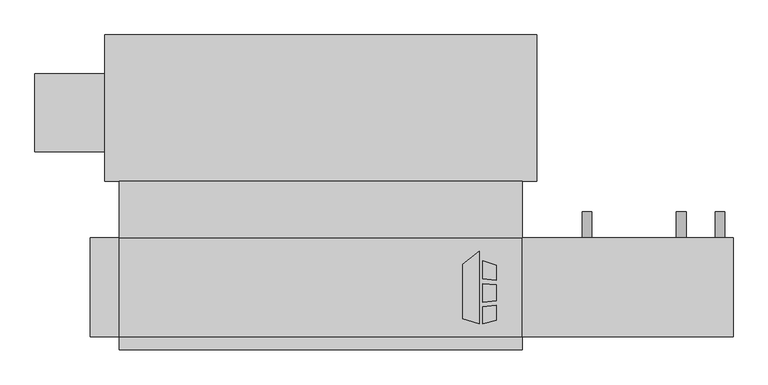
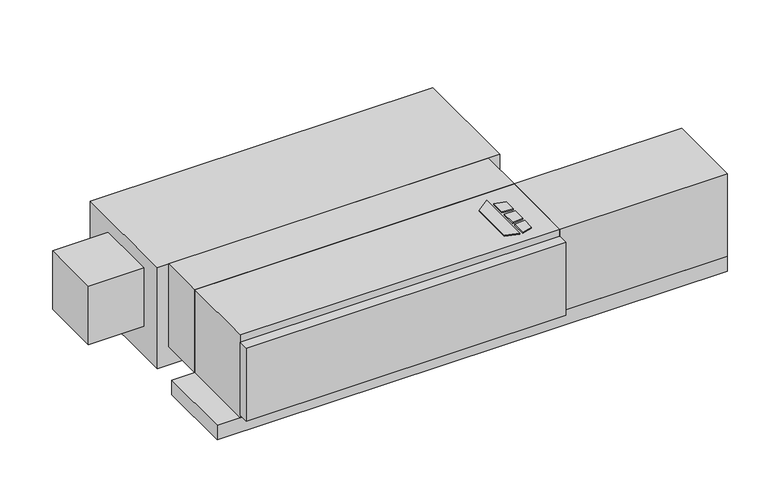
"""IFC4 building model written with IfcOpenShell, lengths in millimetres: proxy geometry, Concealed_Horizontal_Fan_Coil_Unit_With_Plenum_-_CPF_-_IEC_-_2-Pipe_RH : Size 06 - 115v/60Hz/1Ph - 4/1 Coil."""

import ifcopenshell
import ifcopenshell.guid

model = None  # the IFC model being written
_history = None  # IfcOwnerHistory: only IFC2X3 demands one
_inside = {}  # id of a spatial element -> (the spatial element, [elements in it])
_under = {}  # id of a project, library or spatial element -> (it, [spatial elements below it])
_declared = {}  # id of a project -> (the project, [libraries it declares])
_typed = {}  # id of a type object -> (the type object, [elements of that type])
_made_of = {}  # id of a material, layer set ... -> (it, [elements and type objects made of it])


def new_model(schema):
    """Start an empty IFC model of exactly this schema.

    Asked for "IFC4X3", IfcOpenShell would pick the latest addendum, in which some entities
    have other attributes; the version numbers below select the first issue.
    IFC2X3 requires an IfcOwnerHistory on every rooted entity: one is made here for all.
    """
    global model, _history
    if schema == "IFC4X3":
        model = ifcopenshell.file(schema_version=(4, 3, 0, 0))
    else:
        model = ifcopenshell.file(schema=schema)
    _inside.clear()
    _under.clear()
    _declared.clear()
    _typed.clear()
    _made_of.clear()
    _history = None
    if model.schema == "IFC2X3":
        org = make("IfcOrganization", Name="unknown")
        user = make(
            "IfcPersonAndOrganization",
            ThePerson=make("IfcPerson", FamilyName="unknown"),
            TheOrganization=org,
        )
        app = make(
            "IfcApplication",
            ApplicationDeveloper=org,
            Version="unknown",
            ApplicationFullName="unknown",
            ApplicationIdentifier="unknown",
        )
        _history = make(
            "IfcOwnerHistory",
            OwningUser=user,
            OwningApplication=app,
            ChangeAction="ADDED",
            CreationDate=0,
        )
    return model


def make(cls, **values):
    """One entity of the class cls with the attributes given. An attribute that is None is left unset."""
    return model.create_entity(
        cls, **{name: value for name, value in values.items() if value is not None}
    )


def rooted(cls, **values):
    """An entity with a GlobalId (a new one), such as an element, a storey or a relation."""
    return make(cls, GlobalId=ifcopenshell.guid.new(), OwnerHistory=_history, **values)


def si_unit(unit_type, name, prefix=None):
    """IfcSIUnit, for example si_unit("LENGTHUNIT", "METRE", prefix="MILLI")."""
    return make("IfcSIUnit", UnitType=unit_type, Prefix=prefix, Name=name)


def assignment(units):
    """IfcUnitAssignment: the units of a project."""
    return None if units is None else make("IfcUnitAssignment", Units=units)


def point(xyz):
    """IfcCartesianPoint."""
    return None if xyz is None else make("IfcCartesianPoint", Coordinates=xyz)


def direction(xyz):
    """IfcDirection."""
    return None if xyz is None else make("IfcDirection", DirectionRatios=xyz)


def frame(location, z_axis=None, x_axis=None):
    """IfcAxis2Placement3D, a coordinate frame: its origin and axes. An axis left out is left unset."""
    return make(
        "IfcAxis2Placement3D",
        Location=point(location),
        Axis=direction(z_axis),
        RefDirection=direction(x_axis),
    )


def frame_2d(location, x_axis=None):
    """IfcAxis2Placement2D, a coordinate frame in the plane: its origin and x axis."""
    return make(
        "IfcAxis2Placement2D", Location=point(location), RefDirection=direction(x_axis)
    )


def origin():
    """The frame at (0, 0, 0) with its axes left unset."""
    return frame((0.0, 0.0, 0.0))


def origin_with_axes():
    """The frame at (0, 0, 0) with the z axis (0, 0, 1) and the x axis (1, 0, 0) written out."""
    return frame((0.0, 0.0, 0.0), z_axis=(0.0, 0.0, 1.0), x_axis=(1.0, 0.0, 0.0))


def place(relative_to, where):
    """IfcLocalPlacement: puts the frame where relative to a parent placement (None: the world)."""
    return make(
        "IfcLocalPlacement", PlacementRelTo=relative_to, RelativePlacement=where
    )


def context(
    kind, dimensions, precision=None, world=None, true_north=None, identifier=None
):
    """IfcGeometricRepresentationContext, for example the 3D "Model" context."""
    return make(
        "IfcGeometricRepresentationContext",
        ContextIdentifier=identifier,
        ContextType=kind,
        CoordinateSpaceDimension=dimensions,
        Precision=precision,
        WorldCoordinateSystem=world,
        TrueNorth=true_north,
    )


def project(units=None, contexts=None):
    """IfcProject with its units and contexts."""
    return rooted(
        "IfcProject",
        Name="project",
        RepresentationContexts=contexts,
        UnitsInContext=assignment(units),
    )


def spatial(cls, under=None, at=None, **own):
    """A site, building, storey or space (cls), placed at a placement, below another one or the project."""
    s = rooted(cls, ObjectPlacement=at, **own)
    if under is not None:
        _under.setdefault(under.id(), (under, []))[1].append(s)
    return s


def polyline(points):
    """IfcPolyline through the points."""
    return make("IfcPolyline", Points=[point(p) for p in points])


def circle_curve(where, radius):
    """IfcCircle in the frame where."""
    return make("IfcCircle", Position=where, Radius=radius)


def trimmed(basis, trim1, trim2, sense, master):
    """IfcTrimmedCurve: the piece of a basis curve between two trims."""
    return make(
        "IfcTrimmedCurve",
        BasisCurve=basis,
        Trim1=trim1,
        Trim2=trim2,
        SenseAgreement=sense,
        MasterRepresentation=master,
    )


def segment(curve, same_sense, transition):
    """IfcCompositeCurveSegment."""
    return make(
        "IfcCompositeCurveSegment",
        Transition=transition,
        SameSense=same_sense,
        ParentCurve=curve,
    )


def composite_curve(segments, self_intersect=None):
    """IfcCompositeCurve: segments joined end to end."""
    return make("IfcCompositeCurve", Segments=segments, SelfIntersect=self_intersect)


def outline(outer, holes=None, kind="AREA"):
    """IfcArbitraryClosedProfileDef: a profile drawn as a closed curve; with holes, ...WithVoids."""
    if holes is None:
        return make("IfcArbitraryClosedProfileDef", ProfileType=kind, OuterCurve=outer)
    return make(
        "IfcArbitraryProfileDefWithVoids",
        ProfileType=kind,
        OuterCurve=outer,
        InnerCurves=holes,
    )


def extrude(swept, where, along, depth):
    """IfcExtrudedAreaSolid: the profile swept, set in the frame where, extruded along a direction by depth."""
    return make(
        "IfcExtrudedAreaSolid",
        SweptArea=swept,
        Position=where,
        ExtrudedDirection=direction(along),
        Depth=depth,
    )


def shape(context_of_items, identifier, shape_type, items):
    """IfcShapeRepresentation: the items that make up one representation, for example the "Body"."""
    return make(
        "IfcShapeRepresentation",
        ContextOfItems=context_of_items,
        RepresentationIdentifier=identifier,
        RepresentationType=shape_type,
        Items=items,
    )


def source(mapping_origin, context_of_items, identifier, shape_type, items):
    """IfcRepresentationMap: a shape defined once, which mapped items show again and again."""
    return make(
        "IfcRepresentationMap",
        MappingOrigin=mapping_origin,
        MappedRepresentation=shape(context_of_items, identifier, shape_type, items),
    )


def transform(
    local_origin,
    x_axis=None,
    y_axis=None,
    z_axis=None,
    scale=None,
    scale2=None,
    scale3=None,
    uniform=True,
):
    """IfcCartesianTransformationOperator3D, or its non-uniform kind. x_axis, y_axis, z_axis: its Axis1, 2, 3."""
    if uniform:
        return make(
            "IfcCartesianTransformationOperator3D",
            Axis1=direction(x_axis),
            Axis2=direction(y_axis),
            LocalOrigin=point(local_origin),
            Scale=scale,
            Axis3=direction(z_axis),
        )
    return make(
        "IfcCartesianTransformationOperator3DnonUniform",
        Axis1=direction(x_axis),
        Axis2=direction(y_axis),
        LocalOrigin=point(local_origin),
        Scale=scale,
        Axis3=direction(z_axis),
        Scale2=scale2,
        Scale3=scale3,
    )


def mapped(mapping_source, mapping_target):
    """IfcMappedItem: shows the shape of a source again, moved by a transform."""
    return make(
        "IfcMappedItem", MappingSource=mapping_source, MappingTarget=mapping_target
    )


def made_of(thing, what):
    """Note that an element or type object is made of a material, layer set ...; save() writes the relation."""
    if what is not None:
        _made_of.setdefault(what.id(), (what, []))[1].append(thing)
    return thing


def element(
    cls,
    number,
    at=None,
    inside=None,
    cuts=None,
    type_object=None,
    material=None,
    context=None,
    identifier="Body",
    shape_type=None,
    held_by="IfcProductDefinitionShape",
    body=None,
    shapes=None,
    **own,
):
    """One element of the class cls, such as IfcWall. Its Tag is "e" and its number.

    at: its placement. inside: the storey or other place that contains it. cuts: it is an
    opening in that element (IfcRelVoidsElement). A single representation is given by context,
    identifier, shape_type and body (its items); several are given by shapes. held_by: the class
    of the entity that holds the representations. save() writes the other relations.
    """
    e = rooted(cls, Tag="e%d" % number, ObjectPlacement=at, **own)
    if body is not None:
        shapes = [shape(context, identifier, shape_type, body)]
    if shapes is not None:
        e.Representation = make(held_by, Representations=shapes)
    if inside is not None:
        _inside.setdefault(inside.id(), (inside, []))[1].append(e)
    if cuts is not None:
        rooted(
            "IfcRelVoidsElement", RelatingBuildingElement=cuts, RelatedOpeningElement=e
        )
    if type_object is not None:
        _typed.setdefault(type_object.id(), (type_object, []))[1].append(e)
    return made_of(e, material)


def aggregate(whole, parts):
    """IfcRelAggregates: a whole, such as a stair, and the parts it consists of."""
    return rooted("IfcRelAggregates", RelatingObject=whole, RelatedObjects=parts)


def save(model, path):
    """Write the relations noted so far, then the file.

    IfcRelAggregates (storeys below a building ...), IfcRelContainedInSpatialStructure (elements
    in a storey), IfcRelDefinesByType, IfcRelAssociatesMaterial and IfcRelDeclares: one each for
    every whole, place, type object, material and project.
    """
    for whole, parts in _under.values():
        aggregate(whole, parts)
    for where, things in _inside.values():
        rooted(
            "IfcRelContainedInSpatialStructure",
            RelatedElements=things,
            RelatingStructure=where,
        )
    for kind, things in _typed.values():
        rooted("IfcRelDefinesByType", RelatedObjects=things, RelatingType=kind)
    for what, things in _made_of.values():
        rooted("IfcRelAssociatesMaterial", RelatedObjects=things, RelatingMaterial=what)
    for by, libraries in _declared.values():
        rooted("IfcRelDeclares", RelatingContext=by, RelatedDefinitions=libraries)
    model.write(path)


def mechanical_equipment_2c582193(model_context):
    return source(origin(), model_context, "Body", "SweptSolid", [
        extrude(outline(polyline([(429.9019761, -193.0453476), (462.4602728, -167.6080184), (462.4602728, -309.5625), (429.9019761, -299.3429201), (429.9019761, -193.0453476)])), origin_with_axes(), (0.0, 0.0, 1.0), 3.175),
        extrude(outline(polyline([(469.2186058, -220.917352), (469.2186058, -186.4374379), (495.3, -194.6240115), (495.3, -224.1197446), (469.2186058, -220.917352)])), origin_with_axes(), (0.0, 0.0, 1.0), 3.175),
        extrude(outline(polyline([(495.3, -302.5740115), (469.2186058, -309.5625), (469.2186058, -276.3411996), (495.3, -272.7993564), (495.3, -302.5740115)])), origin_with_axes(), (0.0, 0.0, 1.0), 3.175),
        extrude(outline(polyline([(495.3, -233.2013277), (495.3, -264.451483), (469.2186058, -267.192748), (469.2186058, -231.3350378), (495.3, -233.2013277)])), origin_with_axes(), (0.0, 0.0, 1.0), 3.175),
        extrude(outline(polyline([(-241.3, -30.1625), (546.1, -30.1625), (546.1, -141.2875), (-241.3, -141.2875), (-241.3, -30.1625)])), frame((0.0, 0.0, -215.9), z_axis=(0.0, 0.0, 1.0), x_axis=(1.0, 0.0, 0.0)), (0.0, 0.0, 1.0), 215.9),
        extrude(outline(composite_curve([segment(trimmed(circle_curve(frame_2d((-158.75, 857.25)), 9.525), [point((-158.75, 866.775))], [point((-158.75, 847.725))], False, "CARTESIAN"), True, "CONTINUOUS"), segment(trimmed(circle_curve(frame_2d((-158.75, 857.25)), 9.525), [point((-158.75, 847.725))], [point((-158.75, 866.775))], False, "CARTESIAN"), True, "CONTINUOUS")], self_intersect=False)), frame((0.0, -141.2875, 0.0), z_axis=(0.0, 1.0, 0.0), x_axis=(0.0, 0.0, 1.0)), (0.0, 0.0, 1.0), 50.8),
        extrude(outline(composite_curve([segment(trimmed(circle_curve(frame_2d((-158.75, 673.1)), 9.525), [point((-158.75, 682.625))], [point((-158.75, 663.575))], False, "CARTESIAN"), True, "CONTINUOUS"), segment(trimmed(circle_curve(frame_2d((-158.75, 673.1)), 9.525), [point((-158.75, 663.575))], [point((-158.75, 682.625))], False, "CARTESIAN"), True, "CONTINUOUS")], self_intersect=False)), frame((0.0, -141.2875, 0.0), z_axis=(0.0, 1.0, 0.0), x_axis=(0.0, 0.0, 1.0)), (0.0, 0.0, 1.0), 50.8),
        extrude(outline(polyline([(958.85, -141.2875), (958.85, -334.9625), (546.1, -334.9625), (546.1, -141.2875), (958.85, -141.2875)])), frame((0.0, 0.0, -215.9), z_axis=(0.0, 0.0, 1.0), x_axis=(1.0, 0.0, 0.0)), (0.0, 0.0, 1.0), 215.9),
        extrude(outline(composite_curve([segment(trimmed(circle_curve(frame_2d((-241.3, 933.45)), 9.525), [point((-241.3, 923.925))], [point((-241.3, 942.975))], False, "CARTESIAN"), True, "CONTINUOUS"), segment(trimmed(circle_curve(frame_2d((-241.3, 933.45)), 9.525), [point((-241.3, 942.975))], [point((-241.3, 923.925))], False, "CARTESIAN"), True, "CONTINUOUS")], self_intersect=False)), frame((0.0, -141.2875, 0.0), z_axis=(0.0, 1.0, 0.0), x_axis=(0.0, 0.0, 1.0)), (0.0, 0.0, 1.0), 50.8),
        extrude(outline(polyline([(546.1, -334.9625), (546.1, -360.3625), (-241.3, -360.3625), (-241.3, -334.9625), (546.1, -334.9625)])), frame((0.0, 0.0, -209.55), z_axis=(0.0, 0.0, 1.0), x_axis=(1.0, 0.0, 0.0)), (0.0, 0.0, 1.0), 190.5),
        extrude(outline(polyline([(546.1, -334.9625), (-241.3, -334.9625), (-241.3, -141.2875), (546.1, -141.2875), (546.1, -334.9625)])), frame((0.0, 0.0, -215.9), z_axis=(0.0, 0.0, 1.0), x_axis=(1.0, 0.0, 0.0)), (0.0, 0.0, 1.0), 215.9),
        extrude(outline(polyline([(958.85, -141.2875), (958.85, -334.9625), (-298.45, -334.9625), (-298.45, -141.2875), (958.85, -141.2875)])), frame((0.0, 0.0, -254.0), z_axis=(0.0, 0.0, 1.0), x_axis=(1.0, 0.0, 0.0)), (0.0, 0.0, 1.0), 38.1),
        extrude(outline(polyline([(-406.4, 26.9875), (-406.4, 179.3875), (-269.875, 179.3875), (-269.875, 26.9875), (-406.4, 26.9875)])), frame((0.0, 0.0, -187.325), z_axis=(0.0, 0.0, 1.0), x_axis=(1.0, 0.0, 0.0)), (0.0, 0.0, 1.0), 152.4),
        extrude(outline(polyline([(-269.875, 255.5875), (574.675, 255.5875), (574.675, -30.1625), (-269.875, -30.1625), (-269.875, 255.5875)])), frame((0.0, 0.0, -263.525), z_axis=(0.0, 0.0, 1.0), x_axis=(1.0, 0.0, 0.0)), (0.0, 0.0, 1.0), 263.525),
    ])


if __name__ == "__main__":
    model = new_model("IFC4")
    model_context = context("Model", 3, world=origin())
    ifc_project = project(units=[si_unit("LENGTHUNIT", "METRE", prefix="MILLI")], contexts=[model_context])
    site = spatial("IfcSite", under=ifc_project)
    building = spatial("IfcBuilding", under=site)
    placement = place(None, origin())
    mechanical_equipment_shape = mechanical_equipment_2c582193(model_context)
    element("IfcBuildingElementProxy", 1, Name="Concealed_Horizontal_Fan_Coil_Unit_With_Plenum_-_CPF_-_IEC_-_2-Pipe_RH : Size 06 - 115v/60Hz/1Ph - 4/1 Coil", ObjectType="Concealed_Horizontal_Fan_Coil_Unit_With_Plenum_-_CPF_-_IEC_-_2-Pipe_RH : Size 06 - 115v/60Hz/1Ph - 4/1 Coil", at=placement, inside=building, context=model_context, shape_type="MappedRepresentation", body=[
        mapped(mechanical_equipment_shape, transform((0.0, 0.0, 0.0), x_axis=(1.0, 0.0, 0.0), y_axis=(0.0, 1.0, 0.0), z_axis=(0.0, 0.0, 1.0))),
    ])
    save(model, "model.ifc")
